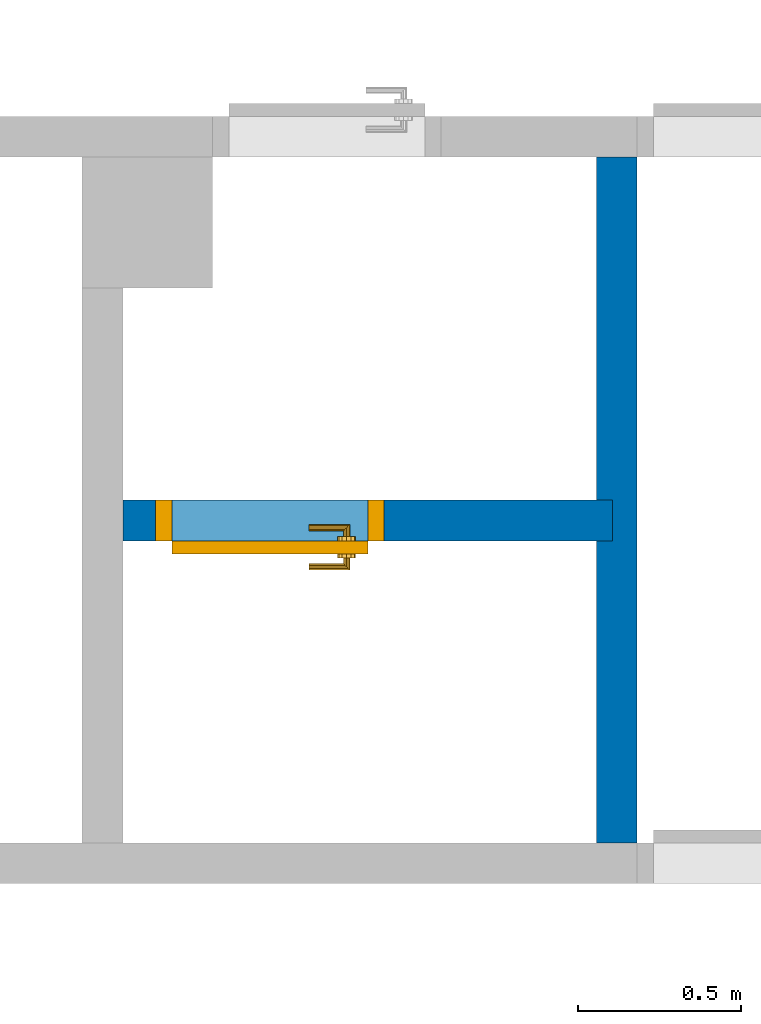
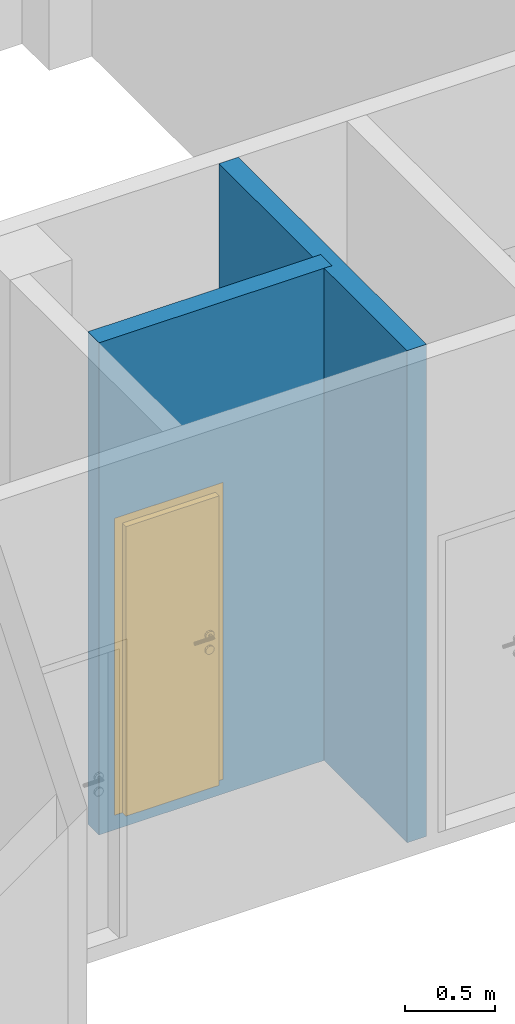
# One storey, part 3 of 37: 2 walls, 1 door, 1 opening.
"""IFC4 building model written with IfcOpenShell, lengths in metres."""

from ifc_helpers import new_model, entity, si_unit, converted_unit, derived_unit, frame, frame_2d, origin, origin_with_axes, place, context, subcontext, project, spatial, polyline, rectangle, outline, extrude, closed_shell, open_shell, surface_model, source, transform, mapped, material, layer, layer_set, layer_usage, type_object, element, fill, save


model = new_model("IFC4")

# Units and contexts
model_context = context("Model", 3, precision=1e-05, world=origin())
body_context = subcontext(model_context, "Body", "Model", "MODEL_VIEW")
ifc_project = project(units=[si_unit("LENGTHUNIT", "METRE"), si_unit("AREAUNIT", "SQUARE_METRE"), si_unit("VOLUMEUNIT", "CUBIC_METRE"), si_unit("MASSUNIT", "GRAM", prefix="KILO"), converted_unit("PLANEANGLEUNIT", "DEGREE", entity("IfcPlaneAngleMeasure", 0.0174532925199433), si_unit("PLANEANGLEUNIT", "RADIAN"), dimensions=[0, 0, 0, 0, 0, 0, 0]), derived_unit("THERMALTRANSMITTANCEUNIT", [(si_unit("POWERUNIT", "WATT"), 1), (si_unit("THERMODYNAMICTEMPERATUREUNIT", "KELVIN"), -1), (si_unit("LENGTHUNIT", "METRE"), -2)]), derived_unit("VOLUMETRICFLOWRATEUNIT", [(si_unit("LENGTHUNIT", "METRE"), 3), (converted_unit("TIMEUNIT", "hour", entity("IfcTimeMeasure", 3600.0), si_unit("TIMEUNIT", "SECOND"), dimensions=[0, 0, 1, 0, 0, 0, 0]), -1), (si_unit("LENGTHUNIT", "METRE"), -1)])], contexts=[model_context])

# Site, building, storey
site_placement = place(None, origin())
site = spatial("IfcSite", under=ifc_project, at=site_placement, Name="3. ASŘ", CompositionType="ELEMENT")
building_placement = place(site_placement, origin())
building = spatial("IfcBuilding", under=site, at=building_placement, Name="Pavilon B", CompositionType="ELEMENT")
storey_placement = place(building_placement, origin())
storey = spatial("IfcBuildingStorey", under=building, at=storey_placement, Name="Půdorys 1.NP", CompositionType="ELEMENT", Elevation=0.0)

# Wall
ifc_material_1 = material(Name="ZDIVO Z CDm")
ifc_layer_1 = layer(ifc_material_1, 0.125)
ifc_layer_set_1 = layer_set([ifc_layer_1])
ifc_layer_usage_1 = layer_usage(ifc_layer_set_1, "AXIS2", "POSITIVE", 0.0)
wall_1_placement = place(storey_placement, frame((18.775, -21.4, -0.1), z_axis=(0.0, 0.0, 1.0), x_axis=(0.0, -1.0, 0.0)))
element("IfcWall", 1, at=wall_1_placement, inside=storey, material=ifc_layer_usage_1, Name="ZDIVO Z CDm", context=body_context, shape_type="SweptSolid", body=[
    extrude(outline(polyline([(-2.09999999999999, 0.0), (-1.04999999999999, 0.0), (-1.04999999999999, 0.05), (-0.924999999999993, 0.05), (-0.924999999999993, 0.0), (0.0, 0.0), (0.0, 0.125), (-2.09999999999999, 0.125), (-2.09999999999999, 0.0)])), frame((2.09999999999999, 0.0, 0.0), z_axis=(0.0, 0.0, 1.0), x_axis=(1.0, 0.0, 0.0)), (0.0, 0.0, 1.0), 3.35),
])

# Wall, opening, door
ifc_material_2 = material(Name="ZDIVO Z CDm")
ifc_layer_2 = layer(ifc_material_2, 0.125)
ifc_layer_set_2 = layer_set([ifc_layer_2])
ifc_layer_usage_2 = layer_usage(ifc_layer_set_2, "AXIS2", "POSITIVE", 0.0)
wall_2_placement = place(storey_placement, frame((18.825, -22.45, -0.1), z_axis=(0.0, 0.0, 1.0), x_axis=(-1.0, 0.0, 0.0)))
wall_2 = element("IfcWall", 2, at=wall_2_placement, inside=storey, material=ifc_layer_usage_2, Name="ZDIVO Z CDm", context=body_context, shape_type="SweptSolid", body=[
    extrude(rectangle(XDim=1.5, YDim=0.125, at=frame_2d((0.75, 0.0625), x_axis=(1.0, 0.0))), origin_with_axes(), (0.0, 0.0, 1.0), 3.35),
])
opening_placement = place(wall_2_placement, frame((1.4, 0.125, 0.1), z_axis=(0.0, -1.0, 0.0), x_axis=(0.0, 0.0, 1.0)))
opening = element("IfcOpeningElement", 3, at=opening_placement, cuts=wall_2, Name="Dveřní otvor", ObjectType="Opening", context=body_context, shape_type="SweptSolid", body=[
    extrude(outline(polyline([(0.0, 0.7), (2.02, 0.7), (2.02, 0.0), (0.0, 0.0), (0.0, 0.7)])), origin_with_axes(), (0.0, 0.0, 1.0), 0.125),
])
door_type = type_object("IfcDoorType", Name="D101", OperationType="NOTDEFINED", ParameterTakesPrecedence=False, PredefinedType="DOOR")
shared_shape = source(origin_with_axes(), body_context, "Body", "SurfaceModel", [
    surface_model("IfcShellBasedSurfaceModel", [(0.0, 0.125, 2.02), (0.0, 0.125, -7.65404249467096e-18), (0.05, 0.125, -7.65404249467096e-18), (0.05, 0.125, 2.02), (0.0, 0.0, 7.65404249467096e-18), (0.0, 2.41584530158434e-16, 2.02), (0.05, 2.41584530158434e-16, 2.02), (0.05, 0.0, 7.65404249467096e-18)], [closed_shell([[[0, 1, 2, 3]], [[4, 5, 6, 7]], [[1, 0, 5, 4]], [[2, 1, 4, 7]], [[3, 2, 7, 6]], [[0, 3, 6, 5]]], orient=[[False], [False], [False], [False], [False], [False]])]),
    surface_model("IfcShellBasedSurfaceModel", [(0.65, 0.125, 2.02), (0.65, 0.125, -7.65404249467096e-18), (0.7, 0.125, -7.65404249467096e-18), (0.7, 0.125, 2.02), (0.65, 0.0, 7.65404249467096e-18), (0.65, 2.41584530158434e-16, 2.02), (0.7, 2.41584530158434e-16, 2.02), (0.7, 0.0, 7.65404249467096e-18)], [closed_shell([[[0, 1, 2, 3]], [[4, 5, 6, 7]], [[1, 0, 5, 4]], [[2, 1, 4, 7]], [[3, 2, 7, 6]], [[0, 3, 6, 5]]], orient=[[False], [False], [False], [False], [False], [False]])]),
    surface_model("IfcShellBasedSurfaceModel", [(0.05, 0.125, 2.02), (0.05, 0.125, 1.97), (0.65, 0.125, 1.97), (0.65, 0.125, 2.02), (0.05, 2.41584530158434e-16, 1.97), (0.05, 2.41584530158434e-16, 2.02), (0.65, 2.41584530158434e-16, 2.02), (0.65, 2.41584530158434e-16, 1.97)], [closed_shell([[[0, 1, 2, 3]], [[4, 5, 6, 7]], [[1, 0, 5, 4]], [[2, 1, 4, 7]], [[3, 2, 7, 6]], [[0, 3, 6, 5]]], orient=[[False], [False], [False], [False], [False], [False]])]),
    surface_model("IfcShellBasedSurfaceModel", [(0.05, 0.165, 1.97), (0.05, 0.165, -1.25526296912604e-17), (0.65, 0.165, -1.25526296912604e-17), (0.65, 0.165, 1.97), (0.05, 0.125, -7.65404249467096e-18), (0.05, 0.125, 1.97), (0.65, 0.125, 1.97), (0.65, 0.125, -7.65404249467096e-18)], [closed_shell([[[0, 1, 2, 3]], [[4, 5, 6, 7]], [[1, 0, 5, 4]], [[2, 1, 4, 7]], [[3, 2, 7, 6]], [[0, 3, 6, 5]]], orient=[[False], [False], [False], [False], [False], [False]])]),
    surface_model("IfcShellBasedSurfaceModel", [(0.608815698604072, 0.125, 0.93625), (0.6125, 0.125, 0.95), (0.608815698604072, 0.125, 0.96375), (0.59875, 0.125, 0.973815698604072), (0.585, 0.125, 0.9775), (0.57125, 0.125, 0.973815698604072), (0.561184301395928, 0.125, 0.96375), (0.5575, 0.125, 0.95), (0.561184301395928, 0.125, 0.93625), (0.57125, 0.125, 0.926184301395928), (0.585, 0.125, 0.9225), (0.59875, 0.125, 0.926184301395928), (0.6125, 0.1125, 0.95), (0.608815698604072, 0.1125, 0.93625), (0.59875, 0.1125, 0.926184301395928), (0.585, 0.1125, 0.9225), (0.57125, 0.1125, 0.926184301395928), (0.561184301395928, 0.1125, 0.93625), (0.5575, 0.1125, 0.95), (0.561184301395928, 0.1125, 0.96375), (0.57125, 0.1125, 0.973815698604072), (0.585, 0.1125, 0.9775), (0.59875, 0.1125, 0.973815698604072), (0.608815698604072, 0.1125, 0.96375)], [closed_shell([[[0, 1, 2, 3, 4, 5, 6, 7, 8, 9, 10, 11]], [[12, 13, 14, 15, 16, 17, 18, 19, 20, 21, 22, 23]], [[1, 0, 13, 12]], [[2, 1, 12, 23]], [[3, 2, 23, 22]], [[4, 3, 22, 21]], [[5, 4, 21, 20]], [[6, 5, 20, 19]], [[7, 6, 19, 18]], [[8, 7, 18, 17]], [[9, 8, 17, 16]], [[10, 9, 16, 15]], [[11, 10, 15, 14]], [[0, 11, 14, 13]]], orient=[[False], [False], [False], [False], [False], [False], [False], [False], [False], [False], [False], [False], [False], [False]])]),
    surface_model("IfcShellBasedSurfaceModel", [(0.608815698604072, 0.125, 1.03625), (0.6125, 0.125, 1.05), (0.608815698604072, 0.125, 1.06375), (0.59875, 0.125, 1.07381569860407), (0.585, 0.125, 1.0775), (0.57125, 0.125, 1.07381569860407), (0.561184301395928, 0.125, 1.06375), (0.5575, 0.125, 1.05), (0.561184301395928, 0.125, 1.03625), (0.57125, 0.125, 1.02618430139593), (0.585, 0.125, 1.0225), (0.59875, 0.125, 1.02618430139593), (0.6125, 0.1125, 1.05), (0.608815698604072, 0.1125, 1.03625), (0.59875, 0.1125, 1.02618430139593), (0.585, 0.1125, 1.0225), (0.57125, 0.1125, 1.02618430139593), (0.561184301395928, 0.1125, 1.03625), (0.5575, 0.1125, 1.05), (0.561184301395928, 0.1125, 1.06375), (0.57125, 0.1125, 1.07381569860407), (0.585, 0.1125, 1.0775), (0.59875, 0.1125, 1.07381569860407), (0.608815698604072, 0.1125, 1.06375)], [closed_shell([[[0, 1, 2, 3, 4, 5, 6, 7, 8, 9, 10, 11]], [[12, 13, 14, 15, 16, 17, 18, 19, 20, 21, 22, 23]], [[1, 0, 13, 12]], [[2, 1, 12, 23]], [[3, 2, 23, 22]], [[4, 3, 22, 21]], [[5, 4, 21, 20]], [[6, 5, 20, 19]], [[7, 6, 19, 18]], [[8, 7, 18, 17]], [[9, 8, 17, 16]], [[10, 9, 16, 15]], [[11, 10, 15, 14]], [[0, 11, 14, 13]]], orient=[[False], [False], [False], [False], [False], [False], [False], [False], [False], [False], [False], [False], [False], [False]])]),
    surface_model("IfcShellBasedSurfaceModel", [(0.585, 0.125, 1.06), (0.58, 0.125, 1.05866025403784), (0.576339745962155, 0.125, 1.055), (0.575, 0.125, 1.05), (0.576339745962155, 0.125, 1.045), (0.58, 0.125, 1.04133974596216), (0.585, 0.125, 1.04), (0.59, 0.125, 1.04133974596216), (0.593660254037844, 0.125, 1.045), (0.595, 0.125, 1.05), (0.593660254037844, 0.125, 1.055), (0.59, 0.125, 1.05866025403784), (0.59, 0.0800000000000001, 1.05866025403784), (0.585, 0.0850000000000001, 1.06), (0.593660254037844, 0.0763397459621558, 1.055), (0.595, 0.0750000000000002, 1.05), (0.593660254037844, 0.0763397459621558, 1.045), (0.59, 0.0800000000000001, 1.04133974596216), (0.585, 0.0850000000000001, 1.04), (0.58, 0.0900000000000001, 1.04133974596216), (0.576339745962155, 0.0936602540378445, 1.045), (0.575, 0.0950000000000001, 1.05), (0.576339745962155, 0.0936602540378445, 1.055), (0.58, 0.0900000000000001, 1.05866025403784), (0.47, 0.0800000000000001, 1.05866025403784), (0.47, 0.0850000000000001, 1.06), (0.47, 0.0763397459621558, 1.055), (0.47, 0.0750000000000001, 1.05), (0.47, 0.0763397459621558, 1.045), (0.47, 0.0800000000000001, 1.04133974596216), (0.47, 0.0850000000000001, 1.04), (0.47, 0.0900000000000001, 1.04133974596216), (0.47, 0.0936602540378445, 1.045), (0.47, 0.0950000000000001, 1.05), (0.47, 0.0936602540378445, 1.055), (0.47, 0.0900000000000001, 1.05866025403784)], [open_shell([[[0, 1, 2, 3, 4, 5, 6, 7, 8, 9, 10, 11]], [[0, 11, 12, 13]], [[11, 10, 14, 12]], [[10, 9, 15, 14]], [[9, 8, 16, 15]], [[8, 7, 17, 16]], [[7, 6, 18, 17]], [[6, 5, 19, 18]], [[5, 4, 20, 19]], [[4, 3, 21, 20]], [[3, 2, 22, 21]], [[2, 1, 23, 22]], [[1, 0, 13, 23]], [[13, 12, 24, 25]], [[12, 14, 26, 24]], [[14, 15, 27, 26]], [[15, 16, 28, 27]], [[16, 17, 29, 28]], [[17, 18, 30, 29]], [[18, 19, 31, 30]], [[19, 20, 32, 31]], [[20, 21, 33, 32]], [[21, 22, 34, 33]], [[22, 23, 35, 34]], [[23, 13, 25, 35]]], orient=[[False], [False], [False], [False], [False], [False], [False], [False], [False], [False], [False], [False], [False], [False], [False], [False], [False], [False], [False], [False], [False], [False], [False], [False], [False]])]),
    surface_model("IfcShellBasedSurfaceModel", [(0.608815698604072, 0.165, 0.93625), (0.59875, 0.165, 0.926184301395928), (0.585, 0.165, 0.9225), (0.57125, 0.165, 0.926184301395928), (0.561184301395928, 0.165, 0.93625), (0.5575, 0.165, 0.95), (0.561184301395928, 0.165, 0.96375), (0.57125, 0.165, 0.973815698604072), (0.585, 0.165, 0.9775), (0.59875, 0.165, 0.973815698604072), (0.608815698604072, 0.165, 0.96375), (0.6125, 0.165, 0.95), (0.6125, 0.1775, 0.95), (0.608815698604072, 0.1775, 0.96375), (0.59875, 0.1775, 0.973815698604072), (0.585, 0.1775, 0.9775), (0.57125, 0.1775, 0.973815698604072), (0.561184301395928, 0.1775, 0.96375), (0.5575, 0.1775, 0.95), (0.561184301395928, 0.1775, 0.93625), (0.57125, 0.1775, 0.926184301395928), (0.585, 0.1775, 0.9225), (0.59875, 0.1775, 0.926184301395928), (0.608815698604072, 0.1775, 0.93625)], [closed_shell([[[0, 1, 2, 3, 4, 5, 6, 7, 8, 9, 10, 11]], [[12, 13, 14, 15, 16, 17, 18, 19, 20, 21, 22, 23]], [[11, 12, 23, 0]], [[10, 13, 12, 11]], [[9, 14, 13, 10]], [[8, 15, 14, 9]], [[7, 16, 15, 8]], [[6, 17, 16, 7]], [[5, 18, 17, 6]], [[4, 19, 18, 5]], [[3, 20, 19, 4]], [[2, 21, 20, 3]], [[1, 22, 21, 2]], [[0, 23, 22, 1]]], orient=[[False], [False], [False], [False], [False], [False], [False], [False], [False], [False], [False], [False], [False], [False]])]),
    surface_model("IfcShellBasedSurfaceModel", [(0.608815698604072, 0.165, 1.03625), (0.59875, 0.165, 1.02618430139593), (0.585, 0.165, 1.0225), (0.57125, 0.165, 1.02618430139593), (0.561184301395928, 0.165, 1.03625), (0.5575, 0.165, 1.05), (0.561184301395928, 0.165, 1.06375), (0.57125, 0.165, 1.07381569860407), (0.585, 0.165, 1.0775), (0.59875, 0.165, 1.07381569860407), (0.608815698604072, 0.165, 1.06375), (0.6125, 0.165, 1.05), (0.6125, 0.1775, 1.05), (0.608815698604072, 0.1775, 1.06375), (0.59875, 0.1775, 1.07381569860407), (0.585, 0.1775, 1.0775), (0.57125, 0.1775, 1.07381569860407), (0.561184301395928, 0.1775, 1.06375), (0.5575, 0.1775, 1.05), (0.561184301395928, 0.1775, 1.03625), (0.57125, 0.1775, 1.02618430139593), (0.585, 0.1775, 1.0225), (0.59875, 0.1775, 1.02618430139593), (0.608815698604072, 0.1775, 1.03625)], [closed_shell([[[0, 1, 2, 3, 4, 5, 6, 7, 8, 9, 10, 11]], [[12, 13, 14, 15, 16, 17, 18, 19, 20, 21, 22, 23]], [[11, 12, 23, 0]], [[10, 13, 12, 11]], [[9, 14, 13, 10]], [[8, 15, 14, 9]], [[7, 16, 15, 8]], [[6, 17, 16, 7]], [[5, 18, 17, 6]], [[4, 19, 18, 5]], [[3, 20, 19, 4]], [[2, 21, 20, 3]], [[1, 22, 21, 2]], [[0, 23, 22, 1]]], orient=[[False], [False], [False], [False], [False], [False], [False], [False], [False], [False], [False], [False], [False], [False]])]),
    surface_model("IfcShellBasedSurfaceModel", [(0.585, 0.165, 1.06), (0.59, 0.165, 1.05866025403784), (0.593660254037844, 0.165, 1.055), (0.595, 0.165, 1.05), (0.593660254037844, 0.165, 1.045), (0.59, 0.165, 1.04133974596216), (0.585, 0.165, 1.04), (0.58, 0.165, 1.04133974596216), (0.576339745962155, 0.165, 1.045), (0.575, 0.165, 1.05), (0.576339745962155, 0.165, 1.055), (0.58, 0.165, 1.05866025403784), (0.585, 0.205, 1.06), (0.59, 0.21, 1.05866025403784), (0.593660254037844, 0.213660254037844, 1.055), (0.595, 0.215, 1.05), (0.593660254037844, 0.213660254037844, 1.045), (0.59, 0.21, 1.04133974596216), (0.585, 0.205, 1.04), (0.58, 0.2, 1.04133974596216), (0.576339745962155, 0.196339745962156, 1.045), (0.575, 0.195, 1.05), (0.576339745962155, 0.196339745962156, 1.055), (0.58, 0.2, 1.05866025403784), (0.47, 0.205, 1.06), (0.47, 0.21, 1.05866025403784), (0.47, 0.213660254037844, 1.055), (0.47, 0.215, 1.05), (0.47, 0.213660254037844, 1.045), (0.47, 0.21, 1.04133974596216), (0.47, 0.205, 1.04), (0.47, 0.2, 1.04133974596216), (0.47, 0.196339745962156, 1.045), (0.47, 0.195, 1.05), (0.47, 0.196339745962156, 1.055), (0.47, 0.2, 1.05866025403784)], [open_shell([[[0, 1, 2, 3, 4, 5, 6, 7, 8, 9, 10, 11]], [[0, 12, 13, 1]], [[1, 13, 14, 2]], [[2, 14, 15, 3]], [[3, 15, 16, 4]], [[4, 16, 17, 5]], [[5, 17, 18, 6]], [[6, 18, 19, 7]], [[7, 19, 20, 8]], [[8, 20, 21, 9]], [[9, 21, 22, 10]], [[10, 22, 23, 11]], [[11, 23, 12, 0]], [[12, 24, 25, 13]], [[13, 25, 26, 14]], [[14, 26, 27, 15]], [[15, 27, 28, 16]], [[16, 28, 29, 17]], [[17, 29, 30, 18]], [[18, 30, 31, 19]], [[19, 31, 32, 20]], [[20, 32, 33, 21]], [[21, 33, 34, 22]], [[22, 34, 35, 23]], [[23, 35, 24, 12]]], orient=[[False], [False], [False], [False], [False], [False], [False], [False], [False], [False], [False], [False], [False], [False], [False], [False], [False], [False], [False], [False], [False], [False], [False], [False], [False]])]),
])
door_placement = place(opening_placement, frame((0.0, 0.0, 0.125), z_axis=(1.0, 0.0, 0.0), x_axis=(0.0, 1.0, -1.22464679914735e-16)))
door = element("IfcDoor", 4, at=door_placement, inside=storey, type_object=door_type, Name="D101", OverallHeight=2.02, OverallWidth=0.7, context=body_context, shape_type="MappedRepresentation", body=[
    mapped(shared_shape, transform((0.0, 0.0, 0.0), x_axis=(1.0, 0.0, 0.0), y_axis=(0.0, -1.0, 0.0), z_axis=(0.0, 0.0, 1.0), scale=1.0)),
])
fill(opening, door)

save(model, "model.ifc")
